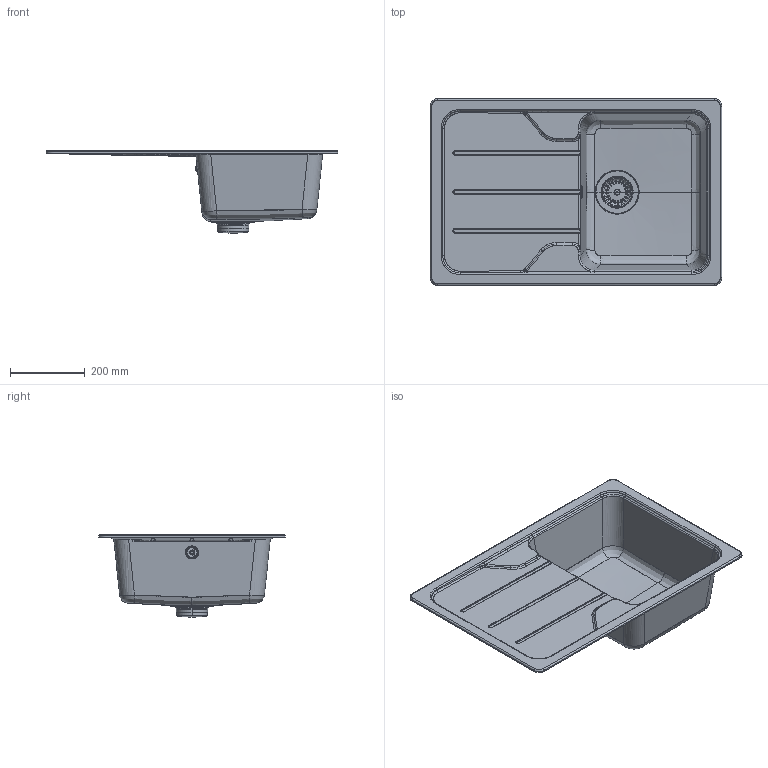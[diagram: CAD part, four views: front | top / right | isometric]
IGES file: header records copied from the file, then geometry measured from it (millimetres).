
Global section: file name: /Volumes/__KUNDEN/____01_SCHOCK/____projekte_schock/___RENDER/_SPU; native system: Rhinoceros ( Aug 27 2014 ); preprocessor: Trout Lake IGES 012 Aug 27 2014; date: 151119.121836; units: millimetre
Bounding box: 780 x 500 x 222.07 mm (x, y, z)
Surface area: 663009 mm2 (no closed solid volume)
Topology: 0 solids, 0 shells, 430 faces, 42226 edges, 42216 vertices
Faces by surface type: bspline 430
